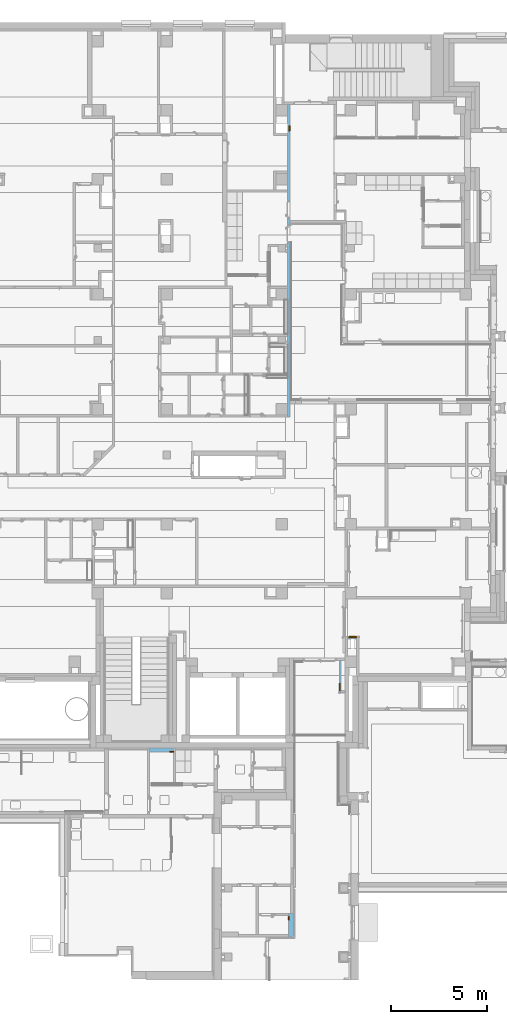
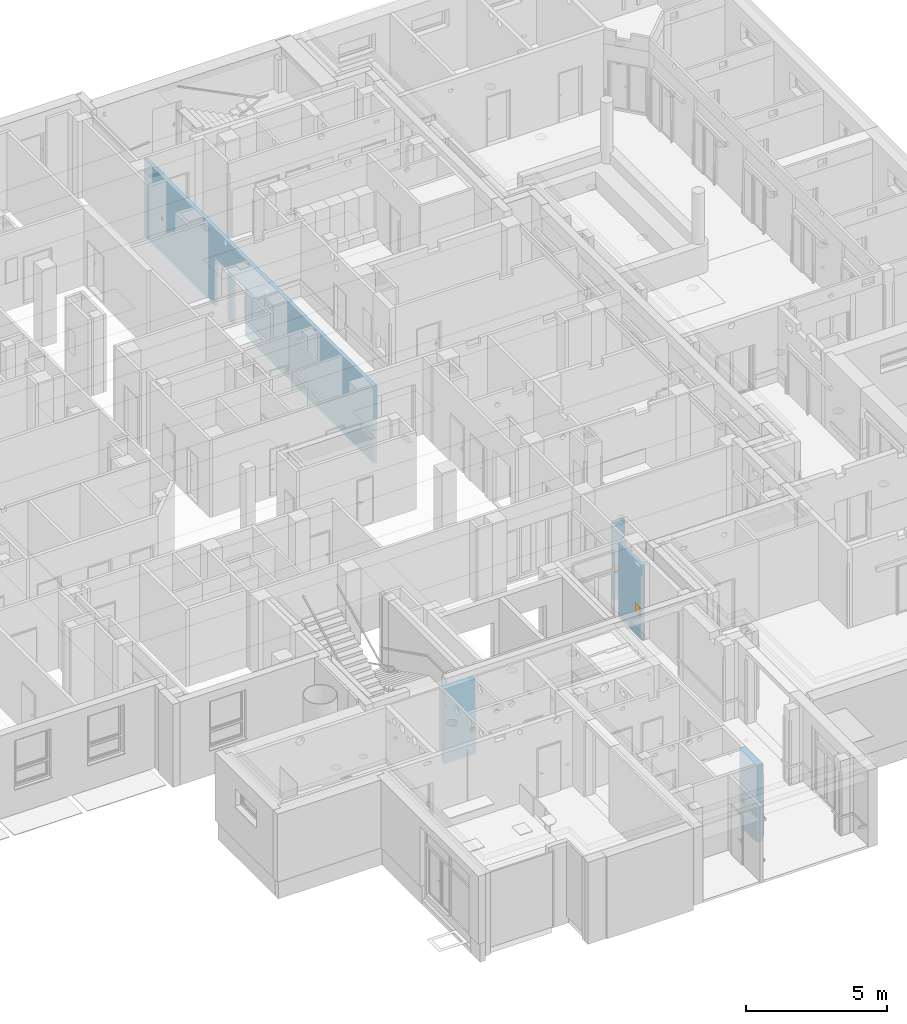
# One storey, part 125 of 140: 3 windows, 2 proxies, 11 openings, plus 5 elements that do not belong to this part.
"""IFC4 building model written with IfcOpenShell, lengths in metres."""

from ifc_helpers import new_model, entity, si_unit, converted_unit, derived_unit, frame, frame_2d, origin, origin_with_axes, place, context, subcontext, project, spatial, polyline, rectangle, outline, extrude, faceted_brep, source, transform, mapped, material, layer, layer_set, layer_usage, element, fill, save


model = new_model("IFC4")

# Units and contexts
model_context = context("Model", 3, precision=1e-05, world=origin())
body_context = subcontext(model_context, "Body", "Model", "MODEL_VIEW")
ifc_project = project(units=[si_unit("LENGTHUNIT", "METRE"), si_unit("AREAUNIT", "SQUARE_METRE"), si_unit("VOLUMEUNIT", "CUBIC_METRE"), si_unit("MASSUNIT", "GRAM", prefix="KILO"), converted_unit("PLANEANGLEUNIT", "DEGREE", entity("IfcPlaneAngleMeasure", 0.0174532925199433), si_unit("PLANEANGLEUNIT", "RADIAN"), dimensions=[0, 0, 0, 0, 0, 0, 0]), derived_unit("THERMALTRANSMITTANCEUNIT", [(si_unit("POWERUNIT", "WATT"), 1), (si_unit("THERMODYNAMICTEMPERATUREUNIT", "KELVIN"), -1), (si_unit("LENGTHUNIT", "METRE"), -2)]), derived_unit("VOLUMETRICFLOWRATEUNIT", [(si_unit("LENGTHUNIT", "METRE"), 3), (converted_unit("TIMEUNIT", "hour", entity("IfcTimeMeasure", 3600.0), si_unit("TIMEUNIT", "SECOND"), dimensions=[0, 0, 1, 0, 0, 0, 0]), -1), (si_unit("LENGTHUNIT", "METRE"), -1)])], contexts=[model_context])

# Site, building, storey
site_placement = place(None, origin())
site = spatial("IfcSite", under=ifc_project, at=site_placement, Name="3. ASŘ", CompositionType="ELEMENT")
building_placement = place(site_placement, origin())
building = spatial("IfcBuilding", under=site, at=building_placement, Name="Pavilon C", CompositionType="ELEMENT")
storey_placement = place(building_placement, origin())
storey = spatial("IfcBuildingStorey", under=building, at=storey_placement, Name="Půdorys 1.NP", CompositionType="ELEMENT", Elevation=0.0)

# Wall, openings, window
ifc_material_1 = material(Name="ZDIVO Z CDm")
ifc_layer_1 = layer(ifc_material_1, 0.125)
ifc_layer_set_1 = layer_set([ifc_layer_1])
ifc_layer_usage_1 = layer_usage(ifc_layer_set_1, "AXIS2", "POSITIVE", 0.0)
wall_1_placement = place(storey_placement, frame((44.25, 1.32499999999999, -0.1), z_axis=(0.0, 0.0, 1.0), x_axis=(-1.0, 0.0, 0.0)))
wall_1 = element("IfcWall", 1, at=wall_1_placement, inside=storey, material=ifc_layer_usage_1, Name="ZDIVO Z CDm", context=body_context, shape_type="SweptSolid", body=[
    extrude(rectangle(XDim=0.475, YDim=0.125, at=frame_2d((0.2375, 0.0625), x_axis=(1.0, 0.0))), origin_with_axes(), (0.0, 0.0, 1.0), 3.35),
])
opening_1_placement = place(wall_1_placement, frame((0.155002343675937, 0.0, 2.99), z_axis=(0.0, 1.0, 0.0), x_axis=(0.0, 0.0, 1.0)))
element("IfcOpeningElement", 2, at=opening_1_placement, cuts=wall_1, Name="UT", ObjectType="Opening", context=body_context, shape_type="SweptSolid", body=[
    extrude(outline(polyline([(0.0, 0.28), (0.12, 0.28), (0.12, 0.0), (0.0, 0.0), (0.0, 0.28)])), origin_with_axes(), (0.0, 0.0, 1.0), 0.12),
])
opening_2_placement = place(wall_1_placement, frame((0.0, 0.0, 1.1), z_axis=(0.0, 1.0, 0.0), x_axis=(0.0, 0.0, 1.0)))
opening_2 = element("IfcOpeningElement", 3, at=opening_2_placement, cuts=wall_1, Name="Okenní otvor", ObjectType="Opening", context=body_context, shape_type="SweptSolid", body=[
    extrude(outline(polyline([(0.0, 0.4), (0.4, 0.4), (0.4, 0.0), (0.0, 0.0), (0.0, 0.4)])), origin_with_axes(), (0.0, 0.0, 1.0), 0.125),
])
shared_shape_1 = source(origin_with_axes(), body_context, "Body", "Brep", [
    faceted_brep([(0.0, 0.06, 0.4), (0.0, 0.06, 4.91096680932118e-19), (0.02, 0.06, 4.91096680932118e-19), (0.02, 0.06, 0.4), (0.0, 0.01, 6.61433067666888e-18), (0.0, 0.0100000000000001, 0.4), (0.02, 0.0100000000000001, 0.4), (0.02, 0.01, 6.61433067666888e-18)], [[[0, 1, 2, 3]], [[4, 5, 6, 7]], [[1, 0, 5, 4]], [[2, 1, 4, 7]], [[3, 2, 7, 6]], [[0, 3, 6, 5]]], orient=[[False], [False], [False], [False], [False], [False]]),
    faceted_brep([(0.38, 0.06, 0.4), (0.38, 0.06, 4.91096680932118e-19), (0.4, 0.06, 4.91096680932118e-19), (0.4, 0.06, 0.4), (0.38, 0.01, 6.61433067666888e-18), (0.38, 0.0100000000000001, 0.4), (0.4, 0.0100000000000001, 0.4), (0.4, 0.01, 6.61433067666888e-18)], [[[0, 1, 2, 3]], [[4, 5, 6, 7]], [[1, 0, 5, 4]], [[2, 1, 4, 7]], [[3, 2, 7, 6]], [[0, 3, 6, 5]]], orient=[[False], [False], [False], [False], [False], [False]]),
    faceted_brep([(0.02, 0.06, 0.02), (0.02, 0.06, 4.91096680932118e-19), (0.38, 0.06, 4.91096680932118e-19), (0.38, 0.06, 0.02), (0.02, 0.01, 6.61433067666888e-18), (0.02, 0.01, 0.02), (0.38, 0.01, 0.02), (0.38, 0.01, 6.61433067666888e-18)], [[[0, 1, 2, 3]], [[4, 5, 6, 7]], [[1, 0, 5, 4]], [[2, 1, 4, 7]], [[3, 2, 7, 6]], [[0, 3, 6, 5]]], orient=[[False], [False], [False], [False], [False], [False]]),
    faceted_brep([(0.02, 0.06, 0.4), (0.02, 0.06, 0.38), (0.38, 0.06, 0.38), (0.38, 0.06, 0.4), (0.02, 0.0100000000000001, 0.38), (0.02, 0.0100000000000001, 0.4), (0.38, 0.0100000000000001, 0.4), (0.38, 0.0100000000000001, 0.38)], [[[0, 1, 2, 3]], [[4, 5, 6, 7]], [[1, 0, 5, 4]], [[2, 1, 4, 7]], [[3, 2, 7, 6]], [[0, 3, 6, 5]]], orient=[[False], [False], [False], [False], [False], [False]]),
    faceted_brep([(0.02, 0.01, 0.38), (0.02, 0.01, 0.02), (0.38, 0.01, 0.02), (0.38, 0.01, 0.38), (0.02, 0.0, 0.02), (0.02, 4.44089209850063e-17, 0.38), (0.38, 4.44089209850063e-17, 0.38), (0.38, 0.0, 0.02)], [[[0, 1, 2, 3]], [[4, 5, 6, 7]], [[1, 0, 5, 4]], [[2, 1, 4, 7]], [[3, 2, 7, 6]], [[0, 3, 6, 5]]], orient=[[False], [False], [False], [False], [False], [False]]),
])
window_1_placement = place(opening_2_placement, frame((0.0, 0.4, -0.01), z_axis=(1.0, 0.0, 0.0), x_axis=(0.0, -1.0, 1.22464679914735e-16)))
window_1 = element("IfcWindow", 4, at=window_1_placement, inside=storey, Name="O01", OverallHeight=0.4, OverallWidth=0.4, PartitioningType="USERDEFINED", PredefinedType="WINDOW", context=body_context, shape_type="MappedRepresentation", body=[
    mapped(shared_shape_1, transform((0.0, 0.0, 0.0), x_axis=(1.0, 0.0, 0.0), y_axis=(0.0, -1.0, 0.0), z_axis=(0.0, 0.0, 1.0), scale=1.0)),
])
fill(opening_2, window_1)

ifc_material_2 = material(Name="ZDIVO Z CDm")
ifc_layer_2 = layer(ifc_material_2, 0.125)
ifc_layer_set_2 = layer_set([ifc_layer_2])
ifc_layer_usage_2 = layer_usage(ifc_layer_set_2, "AXIS2", "POSITIVE", 0.0)
wall_2_placement = place(storey_placement, frame((40.775, 12.775, -0.1), z_axis=(0.0, 0.0, 1.0), x_axis=(0.0, 1.0, 0.0)))
wall_2 = element("IfcWall", 5, at=wall_2_placement, inside=storey, material=ifc_layer_usage_2, Name="ZDIVO Z CDm", context=body_context, shape_type="SweptSolid", body=[
    extrude(rectangle(XDim=16.325, YDim=0.125, at=frame_2d((8.1625, 0.0625), x_axis=(1.0, 0.0))), origin_with_axes(), (0.0, 0.0, 1.0), 3.35),
])
opening_3_placement = place(wall_2_placement, frame((10.4048246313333, 0.0, 3.07), z_axis=(0.0, 1.0, 0.0), x_axis=(0.0, 0.0, 1.0)))
element("IfcOpeningElement", 6, at=opening_3_placement, cuts=wall_2, Name="VZT", ObjectType="Opening", context=body_context, shape_type="SweptSolid", body=[
    extrude(outline(polyline([(0.129999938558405, 0.0), (0.116411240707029, 0.000712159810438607), (0.102971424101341, 0.00284082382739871), (0.0898277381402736, 0.00636266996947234), (0.077124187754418, 0.0112391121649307), (0.0649999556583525, 0.0174167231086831), (0.0535878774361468, 0.0248278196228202), (0.0430129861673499, 0.0333912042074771), (0.0333911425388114, 0.0430130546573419), (0.0248277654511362, 0.0535879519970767), (0.0174166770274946, 0.0650000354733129), (0.0112390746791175, 0.0771242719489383), (0.00636264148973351, 0.089827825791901), (0.00284080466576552, 0.102971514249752), (0.000712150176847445, 0.116411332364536), (0.0, 0.130000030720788), (0.000712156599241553, 0.143588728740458), (0.00284081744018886, 0.157028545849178), (0.00636266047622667, 0.170172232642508), (0.0112390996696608, 0.182875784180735), (0.0174167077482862, 0.195000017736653), (0.0248278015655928, 0.206412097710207), (0.0333911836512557, 0.216986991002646), (0.0430130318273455, 0.226608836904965), (0.0535879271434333, 0.235172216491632), (0.0650000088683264, 0.242583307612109), (0.0771242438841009, 0.248760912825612), (0.0898277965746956, 0.253637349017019), (0.102971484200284, 0.257159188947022), (0.116411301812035, 0.259287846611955), (0.129999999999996, 0.26), (0.143588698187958, 0.259287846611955), (0.157028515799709, 0.257159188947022), (0.170172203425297, 0.253637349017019), (0.182875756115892, 0.248760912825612), (0.194999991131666, 0.242583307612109), (0.206412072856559, 0.235172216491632), (0.216986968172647, 0.226608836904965), (0.226608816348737, 0.216986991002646), (0.2351721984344, 0.206412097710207), (0.242583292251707, 0.195000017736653), (0.248760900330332, 0.182875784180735), (0.253637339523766, 0.170172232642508), (0.257159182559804, 0.157028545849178), (0.259287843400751, 0.143588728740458), (0.259999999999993, 0.130000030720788), (0.259287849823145, 0.116411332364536), (0.257159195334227, 0.102971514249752), (0.253637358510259, 0.089827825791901), (0.248760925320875, 0.0771242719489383), (0.242583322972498, 0.0650000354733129), (0.235172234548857, 0.0535879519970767), (0.226608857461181, 0.0430130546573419), (0.216987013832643, 0.0333912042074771), (0.206412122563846, 0.0248278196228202), (0.19500004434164, 0.0174167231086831), (0.182875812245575, 0.0112391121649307), (0.170172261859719, 0.00636266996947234), (0.157028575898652, 0.00284082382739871), (0.143588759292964, 0.000712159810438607), (0.129999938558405, 0.0)])), origin_with_axes(), (0.0, 0.0, 1.0), 0.125),
])
opening_4_placement = place(wall_2_placement, frame((10.375, 0.0, 0.0), z_axis=(0.0, 1.0, 0.0), x_axis=(0.0, 0.0, 1.0)))
element("IfcOpeningElement", 7, at=opening_4_placement, cuts=wall_2, Name="Dveřní otvor", ObjectType="Opening", context=body_context, shape_type="SweptSolid", body=[
    extrude(outline(polyline([(0.0, 0.9), (2.12, 0.9), (2.12, 0.0), (0.0, 0.0), (0.0, 0.9)])), origin_with_axes(), (0.0, 0.0, 1.0), 0.125),
])
opening_5_placement = place(wall_2_placement, frame((14.925, 0.0, 1.3), z_axis=(0.0, 1.0, 0.0), x_axis=(0.0, 0.0, 1.0)))
opening_5 = element("IfcOpeningElement", 8, at=opening_5_placement, cuts=wall_2, Name="Okenní otvor", ObjectType="Opening", context=body_context, shape_type="SweptSolid", body=[
    extrude(outline(polyline([(0.0, 0.3), (0.3, 0.3), (0.3, 0.0), (0.0, 0.0), (0.0, 0.3)])), origin_with_axes(), (0.0, 0.0, 1.0), 0.125),
])
opening_6_placement = place(wall_2_placement, frame((10.025, 0.125, 0.0), z_axis=(0.0, -1.0, 0.0), x_axis=(0.0, 0.0, 1.0)))
element("IfcOpeningElement", 9, at=opening_6_placement, cuts=wall_2, Name="Dveřní otvor", ObjectType="Opening", context=body_context, shape_type="SweptSolid", body=[
    extrude(outline(polyline([(0.0, 0.9), (2.12, 0.9), (2.12, 0.0), (0.0, 0.0), (0.0, 0.9)])), origin_with_axes(), (0.0, 0.0, 1.0), 0.125),
])
opening_7_placement = place(wall_2_placement, frame((7.47358383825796, 0.0, 2.75), z_axis=(0.0, 1.0, 0.0), x_axis=(0.0, 0.0, 1.0)))
element("IfcOpeningElement", 10, at=opening_7_placement, cuts=wall_2, Name="VZT", ObjectType="Opening", context=body_context, shape_type="SweptSolid", body=[
    extrude(outline(polyline([(0.129999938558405, 0.0), (0.116411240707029, 0.000712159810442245), (0.102971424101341, 0.00284082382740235), (0.0898277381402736, 0.00636266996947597), (0.077124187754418, 0.0112391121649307), (0.0649999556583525, 0.0174167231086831), (0.0535878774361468, 0.0248278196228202), (0.0430129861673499, 0.0333912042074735), (0.0333911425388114, 0.0430130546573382), (0.0248277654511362, 0.0535879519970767), (0.0174166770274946, 0.0650000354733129), (0.0112390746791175, 0.0771242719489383), (0.00636264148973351, 0.0898278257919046), (0.00284080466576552, 0.102971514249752), (0.000712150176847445, 0.116411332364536), (0.0, 0.130000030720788), (0.000712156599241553, 0.143588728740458), (0.00284081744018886, 0.157028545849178), (0.00636266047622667, 0.170172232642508), (0.0112390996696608, 0.182875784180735), (0.0174167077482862, 0.195000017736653), (0.0248278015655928, 0.206412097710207), (0.0333911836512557, 0.21698699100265), (0.0430130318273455, 0.226608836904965), (0.0535879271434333, 0.235172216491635), (0.0650000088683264, 0.242583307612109), (0.0771242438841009, 0.248760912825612), (0.0898277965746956, 0.253637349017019), (0.102971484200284, 0.257159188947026), (0.116411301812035, 0.259287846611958), (0.129999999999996, 0.26), (0.143588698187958, 0.259287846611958), (0.157028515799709, 0.257159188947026), (0.170172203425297, 0.253637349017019), (0.182875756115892, 0.248760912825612), (0.194999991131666, 0.242583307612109), (0.206412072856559, 0.235172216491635), (0.216986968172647, 0.226608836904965), (0.226608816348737, 0.21698699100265), (0.2351721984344, 0.206412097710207), (0.242583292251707, 0.195000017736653), (0.248760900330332, 0.182875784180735), (0.253637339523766, 0.170172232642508), (0.257159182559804, 0.157028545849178), (0.259287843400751, 0.143588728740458), (0.259999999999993, 0.130000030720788), (0.259287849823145, 0.116411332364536), (0.257159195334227, 0.102971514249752), (0.253637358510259, 0.0898278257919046), (0.248760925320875, 0.0771242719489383), (0.242583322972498, 0.0650000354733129), (0.235172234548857, 0.0535879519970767), (0.226608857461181, 0.0430130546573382), (0.216987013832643, 0.0333912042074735), (0.206412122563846, 0.0248278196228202), (0.19500004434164, 0.0174167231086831), (0.182875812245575, 0.0112391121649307), (0.170172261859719, 0.00636266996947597), (0.157028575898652, 0.00284082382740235), (0.143588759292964, 0.000712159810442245), (0.129999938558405, 0.0)])), origin_with_axes(), (0.0, 0.0, 1.0), 0.125),
])
shared_shape_2 = source(origin_with_axes(), body_context, "Body", "Brep", [
    faceted_brep([(0.0, 0.06, 0.3), (0.0, 0.06, 4.91096680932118e-19), (0.02, 0.06, 4.91096680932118e-19), (0.02, 0.06, 0.3), (0.0, 0.01, 6.61433067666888e-18), (0.0, 0.01, 0.3), (0.02, 0.01, 0.3), (0.02, 0.01, 6.61433067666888e-18)], [[[0, 1, 2, 3]], [[4, 5, 6, 7]], [[1, 0, 5, 4]], [[2, 1, 4, 7]], [[3, 2, 7, 6]], [[0, 3, 6, 5]]], orient=[[False], [False], [False], [False], [False], [False]]),
    faceted_brep([(0.28, 0.06, 0.3), (0.28, 0.06, 4.91096680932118e-19), (0.3, 0.06, 4.91096680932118e-19), (0.3, 0.06, 0.3), (0.28, 0.01, 6.61433067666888e-18), (0.28, 0.01, 0.3), (0.3, 0.01, 0.3), (0.3, 0.01, 6.61433067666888e-18)], [[[0, 1, 2, 3]], [[4, 5, 6, 7]], [[1, 0, 5, 4]], [[2, 1, 4, 7]], [[3, 2, 7, 6]], [[0, 3, 6, 5]]], orient=[[False], [False], [False], [False], [False], [False]]),
    faceted_brep([(0.02, 0.06, 0.02), (0.02, 0.06, 4.91096680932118e-19), (0.28, 0.06, 4.91096680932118e-19), (0.28, 0.06, 0.02), (0.02, 0.01, 6.61433067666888e-18), (0.02, 0.01, 0.02), (0.28, 0.01, 0.02), (0.28, 0.01, 6.61433067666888e-18)], [[[0, 1, 2, 3]], [[4, 5, 6, 7]], [[1, 0, 5, 4]], [[2, 1, 4, 7]], [[3, 2, 7, 6]], [[0, 3, 6, 5]]], orient=[[False], [False], [False], [False], [False], [False]]),
    faceted_brep([(0.02, 0.06, 0.3), (0.02, 0.06, 0.28), (0.28, 0.06, 0.28), (0.28, 0.06, 0.3), (0.02, 0.01, 0.28), (0.02, 0.01, 0.3), (0.28, 0.01, 0.3), (0.28, 0.01, 0.28)], [[[0, 1, 2, 3]], [[4, 5, 6, 7]], [[1, 0, 5, 4]], [[2, 1, 4, 7]], [[3, 2, 7, 6]], [[0, 3, 6, 5]]], orient=[[False], [False], [False], [False], [False], [False]]),
    faceted_brep([(0.02, 0.01, 0.28), (0.02, 0.01, 0.02), (0.28, 0.01, 0.02), (0.28, 0.01, 0.28), (0.02, 0.0, 0.02), (0.02, 3.19744231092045e-17, 0.28), (0.28, 3.19744231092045e-17, 0.28), (0.28, 0.0, 0.02)], [[[0, 1, 2, 3]], [[4, 5, 6, 7]], [[1, 0, 5, 4]], [[2, 1, 4, 7]], [[3, 2, 7, 6]], [[0, 3, 6, 5]]], orient=[[False], [False], [False], [False], [False], [False]]),
])
window_2_placement = place(opening_5_placement, frame((0.0, -7.27595761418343e-15, -0.00999999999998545), z_axis=(1.0, 0.0, 0.0), x_axis=(0.0, 1.0, -1.22464679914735e-16)))
window_2 = element("IfcWindow", 11, at=window_2_placement, inside=storey, Name="O01", OverallHeight=0.3, OverallWidth=0.3, PartitioningType="USERDEFINED", PredefinedType="WINDOW", context=body_context, shape_type="MappedRepresentation", body=[
    mapped(shared_shape_2, transform((0.0, 0.0, 0.0), x_axis=(1.0, 0.0, 0.0), y_axis=(0.0, 1.0, 0.0), z_axis=(0.0, 0.0, 1.0), scale=1.0)),
])
fill(opening_5, window_2)

# Wall, opening, proxy
ifc_material_3 = material(Name="SDK - 2 KCE + DVOJITÉ OPLÁŠTĚNÍ")
ifc_layer_3 = layer(ifc_material_3, 0.25)
ifc_layer_set_3 = layer_set([ifc_layer_3])
ifc_layer_usage_3 = layer_usage(ifc_layer_set_3, "AXIS2", "POSITIVE", 0.0)
wall_3_placement = place(storey_placement, frame((40.95, -14.3500000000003, -0.1), z_axis=(0.0, 0.0, 1.0), x_axis=(0.0, 1.0, 0.0)))
wall_3 = element("IfcWall", 12, at=wall_3_placement, inside=storey, material=ifc_layer_usage_3, Name="SDK - 2 KCE + DVOJITÉ OPLÁŠTĚNÍ", context=body_context, shape_type="SweptSolid", body=[
    extrude(rectangle(XDim=1.22500000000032, YDim=0.25, at=frame_2d((0.612500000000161, 0.125), x_axis=(1.0, 0.0))), origin_with_axes(), (0.0, 0.0, 1.0), 3.35),
])
opening_8_placement = place(wall_3_placement, frame((1.07499999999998, 0.25, 1.1), z_axis=(0.0, -1.0, 0.0), x_axis=(0.0, 0.0, 1.0)))
opening_8 = element("IfcOpeningElement", 13, at=opening_8_placement, cuts=wall_3, Name="Stěnová nika", ObjectType="Opening", context=body_context, shape_type="SweptSolid", body=[
    extrude(outline(polyline([(0.0, 0.2), (0.2, 0.2), (0.2, 0.0), (0.0, 0.0), (0.0, 0.2)])), origin_with_axes(), (0.0, 0.0, 1.0), 0.05),
])
shared_shape_3 = source(origin_with_axes(), body_context, "Body", "Brep", [
    faceted_brep([(-3.63797880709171e-15, 0.0499999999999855, 0.2), (-3.63797880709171e-15, 0.0499999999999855, 0.0), (0.0199999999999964, 0.0499999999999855, 0.0), (0.0199999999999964, 0.0499999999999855, 0.2), (-3.63797880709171e-15, -1.45519152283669e-14, 0.0), (-3.63797880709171e-15, -1.45519152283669e-14, 0.2), (0.0199999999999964, -1.45519152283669e-14, 0.2), (0.0199999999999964, -1.45519152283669e-14, 0.0)], [[[0, 1, 2, 3]], [[4, 5, 6, 7]], [[1, 0, 5, 4]], [[2, 1, 4, 7]], [[3, 2, 7, 6]], [[0, 3, 6, 5]]], orient=[[False], [False], [False], [False], [False], [False]]),
    faceted_brep([(0.179999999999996, 0.0499999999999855, 0.2), (0.179999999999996, 0.0499999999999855, 0.0), (0.199999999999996, 0.0499999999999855, 0.0), (0.199999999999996, 0.0499999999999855, 0.2), (0.179999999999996, -1.45519152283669e-14, 0.0), (0.179999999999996, -1.45519152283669e-14, 0.2), (0.199999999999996, -1.45519152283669e-14, 0.2), (0.199999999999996, -1.45519152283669e-14, 0.0)], [[[0, 1, 2, 3]], [[4, 5, 6, 7]], [[1, 0, 5, 4]], [[2, 1, 4, 7]], [[3, 2, 7, 6]], [[0, 3, 6, 5]]], orient=[[False], [False], [False], [False], [False], [False]]),
    faceted_brep([(0.0199999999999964, 0.0499999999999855, 0.02), (0.0199999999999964, 0.0499999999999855, 0.0), (0.179999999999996, 0.0499999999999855, 0.0), (0.179999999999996, 0.0499999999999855, 0.02), (0.0199999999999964, -1.45519152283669e-14, 0.0), (0.0199999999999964, -1.45519152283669e-14, 0.02), (0.179999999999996, -1.45519152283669e-14, 0.02), (0.179999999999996, -1.45519152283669e-14, 0.0)], [[[0, 1, 2, 3]], [[4, 5, 6, 7]], [[1, 0, 5, 4]], [[2, 1, 4, 7]], [[3, 2, 7, 6]], [[0, 3, 6, 5]]], orient=[[False], [False], [False], [False], [False], [False]]),
    faceted_brep([(0.0199999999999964, 0.0499999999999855, 0.2), (0.0199999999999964, 0.0499999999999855, 0.18), (0.179999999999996, 0.0499999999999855, 0.18), (0.179999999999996, 0.0499999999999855, 0.2), (0.0199999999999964, -1.45519152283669e-14, 0.18), (0.0199999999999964, -1.45519152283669e-14, 0.2), (0.179999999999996, -1.45519152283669e-14, 0.2), (0.179999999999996, -1.45519152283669e-14, 0.18)], [[[0, 1, 2, 3]], [[4, 5, 6, 7]], [[1, 0, 5, 4]], [[2, 1, 4, 7]], [[3, 2, 7, 6]], [[0, 3, 6, 5]]], orient=[[False], [False], [False], [False], [False], [False]]),
    faceted_brep([(0.0199999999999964, -1.45519152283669e-14, 0.18), (0.0199999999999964, -1.45519152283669e-14, 0.02), (0.179999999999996, -1.45519152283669e-14, 0.02), (0.179999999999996, -1.45519152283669e-14, 0.18), (0.0199999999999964, -0.0100000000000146, 0.02), (0.0199999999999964, -0.0100000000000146, 0.18), (0.179999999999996, -0.0100000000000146, 0.18), (0.179999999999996, -0.0100000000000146, 0.02)], [[[0, 1, 2, 3]], [[4, 5, 6, 7]], [[1, 0, 5, 4]], [[2, 1, 4, 7]], [[3, 2, 7, 6]], [[0, 3, 6, 5]]], orient=[[False], [False], [False], [False], [False], [False]]),
])
proxy_1_placement = place(opening_8_placement, frame((0.0, 0.0, 0.0), z_axis=(1.0, 0.0, 0.0), x_axis=(0.0, 1.0, 0.0)))
proxy_1 = element("IfcBuildingElementProxy", 14, at=proxy_1_placement, inside=storey, Name="I.Z6", context=body_context, shape_type="MappedRepresentation", body=[
    mapped(shared_shape_3, transform((0.0, 0.0, 0.0), x_axis=(1.0, 0.0, 0.0), y_axis=(0.0, 1.0, 0.0), z_axis=(0.0, 0.0, 1.0), scale=1.0)),
])
fill(opening_8, proxy_1)

ifc_material_4 = material(Name="SDK INSTAL. PŘDSTĚNA VYSOKÁ")
ifc_layer_4 = layer(ifc_material_4, 0.2)
ifc_layer_set_4 = layer_set([ifc_layer_4])
ifc_layer_usage_4 = layer_usage(ifc_layer_set_4, "AXIS2", "POSITIVE", 0.0)
wall_4_placement = place(storey_placement, frame((34.75, -4.5, 0.0), z_axis=(0.0, 0.0, 1.0), x_axis=(-1.0, 1.18933922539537e-14, 0.0)))
wall_4 = element("IfcWall", 15, at=wall_4_placement, inside=storey, material=ifc_layer_usage_4, Name="SDK INSTAL. PŘDSTĚNA VYSOKÁ", context=body_context, shape_type="SweptSolid", body=[
    extrude(rectangle(XDim=1.3, YDim=0.2, at=frame_2d((0.65, 0.1), x_axis=(1.0, 0.0))), origin_with_axes(), (0.0, 0.0, 1.0), 3.25),
])
opening_9_placement = place(wall_4_placement, frame((0.249999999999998, 0.199999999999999, 1.0), z_axis=(1.19371179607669e-14, -1.0, 0.0), x_axis=(0.0, 0.0, 1.0)))
opening_9 = element("IfcOpeningElement", 16, at=opening_9_placement, cuts=wall_4, Name="Stěnová nika", ObjectType="Opening", context=body_context, shape_type="SweptSolid", body=[
    extrude(outline(polyline([(0.0, 0.2), (0.2, 0.2), (0.2, 0.0), (0.0, 0.0), (0.0, 0.2)])), origin_with_axes(), (0.0, 0.0, 1.0), 0.0500000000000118),
])
shared_shape_4 = source(origin_with_axes(), body_context, "Body", "Brep", [
    faceted_brep([(0.2, 0.05, 0.2), (0.18, 0.05, 0.2), (0.18, 0.05, 0.0), (0.2, 0.05, 0.0), (0.2, -1.81898940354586e-15, 0.0), (0.18, -1.81898940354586e-15, 0.0), (0.18, -1.81898940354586e-15, 0.2), (0.2, -1.81898940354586e-15, 0.2)], [[[0, 1, 2, 3]], [[4, 5, 6, 7]], [[3, 4, 7, 0]], [[2, 5, 4, 3]], [[1, 6, 5, 2]], [[0, 7, 6, 1]]], orient=[[False], [False], [False], [False], [False], [False]]),
    faceted_brep([(0.02, 0.05, 0.2), (0.0, 0.05, 0.2), (0.0, 0.05, 0.0), (0.02, 0.05, 0.0), (0.02, -1.81898940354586e-15, 0.0), (0.0, -1.81898940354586e-15, 0.0), (0.0, -1.81898940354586e-15, 0.2), (0.02, -1.81898940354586e-15, 0.2)], [[[0, 1, 2, 3]], [[4, 5, 6, 7]], [[3, 4, 7, 0]], [[2, 5, 4, 3]], [[1, 6, 5, 2]], [[0, 7, 6, 1]]], orient=[[False], [False], [False], [False], [False], [False]]),
    faceted_brep([(0.18, 0.05, 0.02), (0.02, 0.05, 0.02), (0.02, 0.05, 0.0), (0.18, 0.05, 0.0), (0.18, -1.81898940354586e-15, 0.0), (0.02, -1.81898940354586e-15, 0.0), (0.02, -1.81898940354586e-15, 0.02), (0.18, -1.81898940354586e-15, 0.02)], [[[0, 1, 2, 3]], [[4, 5, 6, 7]], [[3, 4, 7, 0]], [[2, 5, 4, 3]], [[1, 6, 5, 2]], [[0, 7, 6, 1]]], orient=[[False], [False], [False], [False], [False], [False]]),
    faceted_brep([(0.18, 0.05, 0.2), (0.02, 0.05, 0.2), (0.02, 0.05, 0.18), (0.18, 0.05, 0.18), (0.18, -1.81898940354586e-15, 0.18), (0.02, -1.81898940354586e-15, 0.18), (0.02, -1.81898940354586e-15, 0.2), (0.18, -1.81898940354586e-15, 0.2)], [[[0, 1, 2, 3]], [[4, 5, 6, 7]], [[3, 4, 7, 0]], [[2, 5, 4, 3]], [[1, 6, 5, 2]], [[0, 7, 6, 1]]], orient=[[False], [False], [False], [False], [False], [False]]),
    faceted_brep([(0.18, -1.81898940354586e-15, 0.18), (0.02, -1.81898940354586e-15, 0.18), (0.02, -1.81898940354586e-15, 0.02), (0.18, -1.81898940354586e-15, 0.02), (0.18, -0.0100000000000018, 0.02), (0.02, -0.0100000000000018, 0.02), (0.02, -0.0100000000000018, 0.18), (0.18, -0.0100000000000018, 0.18)], [[[0, 1, 2, 3]], [[4, 5, 6, 7]], [[3, 4, 7, 0]], [[2, 5, 4, 3]], [[1, 6, 5, 2]], [[0, 7, 6, 1]]], orient=[[False], [False], [False], [False], [False], [False]]),
])
proxy_2_placement = place(opening_9_placement, frame((0.0, 0.0, 0.0), z_axis=(1.0, 0.0, 0.0), x_axis=(0.0, 1.0, 0.0)))
proxy_2 = element("IfcBuildingElementProxy", 17, at=proxy_2_placement, inside=storey, Name="I.Z6", context=body_context, shape_type="MappedRepresentation", body=[
    mapped(shared_shape_4, transform((0.0, 0.0, 0.0), x_axis=(1.0, 0.0, 0.0), y_axis=(0.0, 1.0, 0.0), z_axis=(0.0, 0.0, 1.0), scale=1.0)),
])
fill(opening_9, proxy_2)

# Wall, openings, window
ifc_material_5 = material(Name="SDK OPL. PROFESÍ/SDK OPL. BEZ PO")
ifc_layer_5 = layer(ifc_material_5, 0.1)
ifc_layer_set_5 = layer_set([ifc_layer_5])
ifc_layer_usage_5 = layer_usage(ifc_layer_set_5, "AXIS2", "POSITIVE", 0.0)
wall_5_placement = place(storey_placement, frame((43.35, 0.0749999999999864, 0.0), z_axis=(0.0, 0.0, 1.0), x_axis=(0.0, -1.0, 0.0)))
wall_5 = element("IfcWall", 18, at=wall_5_placement, inside=storey, material=ifc_layer_usage_5, Name="SDK OPL. PROFESÍ/SDK OPL. BEZ PO", context=body_context, shape_type="SweptSolid", body=[
    extrude(rectangle(XDim=1.675, YDim=0.1, at=frame_2d((0.8375, 0.05), x_axis=(1.0, 0.0))), origin_with_axes(), (0.0, 0.0, 1.0), 3.25),
])
opening_10_placement = place(wall_5_placement, frame((1.175, 0.0, 1.0), z_axis=(0.0, 1.0, 0.0), x_axis=(0.0, 0.0, 1.0)))
opening_10 = element("IfcOpeningElement", 19, at=opening_10_placement, cuts=wall_5, Name="Okenní otvor", ObjectType="Opening", context=body_context, shape_type="SweptSolid", body=[
    extrude(outline(polyline([(0.0, 0.4), (0.4, 0.4), (0.4, 0.0), (0.0, 0.0), (0.0, 0.4)])), origin_with_axes(), (0.0, 0.0, 1.0), 0.1),
])
opening_11_placement = place(wall_5_placement, frame((1.52500000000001, 0.1, 3.07), z_axis=(0.0, -1.0, 0.0), x_axis=(0.0, 0.0, 1.0)))
element("IfcOpeningElement", 20, at=opening_11_placement, cuts=wall_5, Name="ZTI", ObjectType="Opening", context=body_context, shape_type="SweptSolid", body=[
    extrude(outline(polyline([(0.0, 0.4), (0.15, 0.4), (0.15, 0.0), (0.0, 0.0), (0.0, 0.4)])), origin_with_axes(), (0.0, 0.0, 1.0), 0.1),
])
shared_shape_5 = source(origin_with_axes(), body_context, "Body", "Brep", [
    faceted_brep([(0.0, 0.06, 0.4), (0.0, 0.06, 4.91096680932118e-19), (0.02, 0.06, 4.91096680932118e-19), (0.02, 0.06, 0.4), (0.0, 0.01, 6.61433067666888e-18), (0.0, 0.0100000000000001, 0.4), (0.02, 0.0100000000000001, 0.4), (0.02, 0.01, 6.61433067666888e-18)], [[[0, 1, 2, 3]], [[4, 5, 6, 7]], [[1, 0, 5, 4]], [[2, 1, 4, 7]], [[3, 2, 7, 6]], [[0, 3, 6, 5]]], orient=[[False], [False], [False], [False], [False], [False]]),
    faceted_brep([(0.38, 0.06, 0.4), (0.38, 0.06, 4.91096680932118e-19), (0.4, 0.06, 4.91096680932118e-19), (0.4, 0.06, 0.4), (0.38, 0.01, 6.61433067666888e-18), (0.38, 0.0100000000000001, 0.4), (0.4, 0.0100000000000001, 0.4), (0.4, 0.01, 6.61433067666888e-18)], [[[0, 1, 2, 3]], [[4, 5, 6, 7]], [[1, 0, 5, 4]], [[2, 1, 4, 7]], [[3, 2, 7, 6]], [[0, 3, 6, 5]]], orient=[[False], [False], [False], [False], [False], [False]]),
    faceted_brep([(0.02, 0.06, 0.02), (0.02, 0.06, 4.91096680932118e-19), (0.38, 0.06, 4.91096680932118e-19), (0.38, 0.06, 0.02), (0.02, 0.01, 6.61433067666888e-18), (0.02, 0.01, 0.02), (0.38, 0.01, 0.02), (0.38, 0.01, 6.61433067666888e-18)], [[[0, 1, 2, 3]], [[4, 5, 6, 7]], [[1, 0, 5, 4]], [[2, 1, 4, 7]], [[3, 2, 7, 6]], [[0, 3, 6, 5]]], orient=[[False], [False], [False], [False], [False], [False]]),
    faceted_brep([(0.02, 0.06, 0.4), (0.02, 0.06, 0.38), (0.38, 0.06, 0.38), (0.38, 0.06, 0.4), (0.02, 0.0100000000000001, 0.38), (0.02, 0.0100000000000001, 0.4), (0.38, 0.0100000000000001, 0.4), (0.38, 0.0100000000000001, 0.38)], [[[0, 1, 2, 3]], [[4, 5, 6, 7]], [[1, 0, 5, 4]], [[2, 1, 4, 7]], [[3, 2, 7, 6]], [[0, 3, 6, 5]]], orient=[[False], [False], [False], [False], [False], [False]]),
    faceted_brep([(0.02, 0.01, 0.38), (0.02, 0.01, 0.02), (0.38, 0.01, 0.02), (0.38, 0.01, 0.38), (0.02, 0.0, 0.02), (0.02, 4.44089209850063e-17, 0.38), (0.38, 4.44089209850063e-17, 0.38), (0.38, 0.0, 0.02)], [[[0, 1, 2, 3]], [[4, 5, 6, 7]], [[1, 0, 5, 4]], [[2, 1, 4, 7]], [[3, 2, 7, 6]], [[0, 3, 6, 5]]], orient=[[False], [False], [False], [False], [False], [False]]),
])
window_3_placement = place(opening_10_placement, frame((0.0, 0.4, -0.0100000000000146), z_axis=(1.0, 0.0, 0.0), x_axis=(0.0, -1.0, -1.22464679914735e-16)))
window_3 = element("IfcWindow", 21, at=window_3_placement, inside=storey, Name="I.Z6", OverallHeight=0.4, OverallWidth=0.4, PartitioningType="USERDEFINED", PredefinedType="WINDOW", context=body_context, shape_type="MappedRepresentation", body=[
    mapped(shared_shape_5, transform((0.0, 0.0, 0.0), x_axis=(1.0, 0.0, 0.0), y_axis=(0.0, -1.0, 0.0), z_axis=(0.0, 0.0, 1.0), scale=1.0)),
])
fill(opening_10, window_3)

save(model, "model.ifc")
